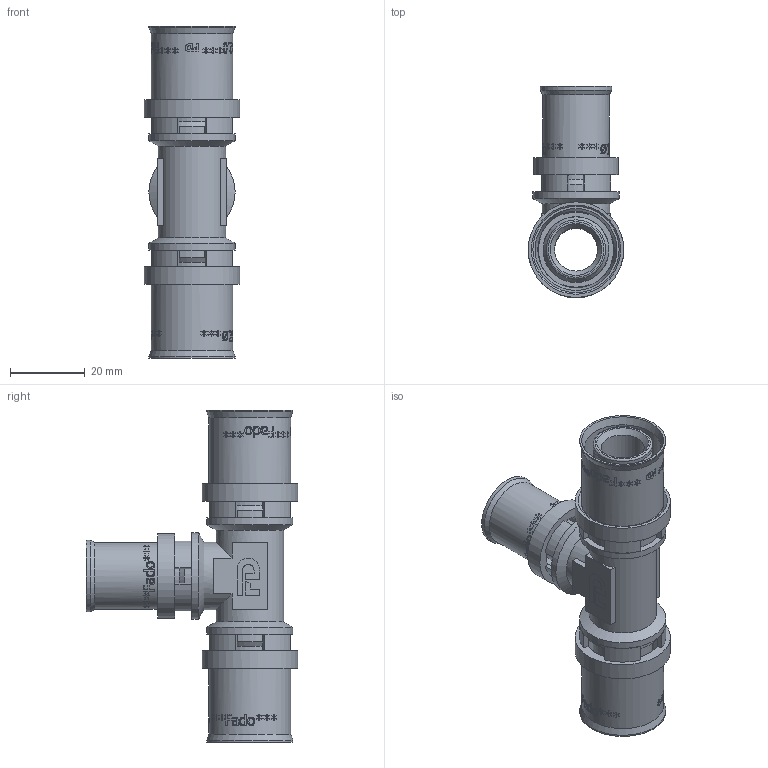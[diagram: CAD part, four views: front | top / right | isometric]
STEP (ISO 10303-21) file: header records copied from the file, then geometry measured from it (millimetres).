
FILE_DESCRIPTION(/* description */ (''),/* implementation_level */ '2;1');
FILE_NAME(/* name */ 'C:\Users\Doom\Desktop\Фадотех\Пресс\HDT04-20X20X16 21.08.2020\HDT04-20X20X16 21.08.2020.stp',/* time_stamp */ '2022-08-12T15:23:09+03:00',/* author */ ('Doom'),/* organization */ (''),/* preprocessor_version */ 'ST-DEVELOPER v18',/* originating_system */ 'Autodesk Inventor 2020',/* authorisation */ '');
FILE_SCHEMA (('AUTOMOTIVE_DESIGN { 1 0 10303 214 3 1 1 }'));
Length unit declared in the file: millimetre
Products named in the file (6): HDM01 Coupler 31.03.2020; 16 Model 18.12.2019; 16 Model 18.12.2019_1; HDT04-20X20X16 21.08.2020; 16 Model 18.12.2019_2; 16 Model 18.12.2019_3
Assembly tree (7 placements, depth 2):
  HDM01 Coupler 31.03.2020
    16 Model 18.12.2019
    16 Model 18.12.2019_1
    HDT04-20X20X16 21.08.2020
    16 Model 18.12.2019_2  x2
    16 Model 18.12.2019_3  x2
Bounding box: 25.5 x 56.35 x 88.55 mm (x, y, z)
Volume: 19324.3 mm3; surface area: 26064 mm2
Topology: 7 solids, 7 shells, 1539 faces, 4328 edges, 2922 vertices
Faces by surface type: bspline 909, plane 373, cylinder 197, cone 45, torus 15
Full cylindrical faces by diameter (mm): 7.5 x1, 9.5 x2, 10.3 x1, 11.5 x1, 11.8 x8, 12.5 x1, 12.6 x1, 13.5 x5, 13.8 x1, 14.3 x2, 15.8 x16, 16.4 x3, 16.6 x2, 17.5 x2, 17.6 x2, 17.8 x1, 18 x2, 18.3 x1, 19 x1, 19.2 x1, 19.5 x1, 20.3 x1, 20.4 x4, 21.8 x2, 22 x2, 22.5 x1, 23 x7, 23.5 x2, 25.5 x2
Entity records: 45811 total; most frequent: CARTESIAN_POINT 21041, ORIENTED_EDGE 6068, DIRECTION 3444, EDGE_CURVE 3034, VERTEX_POINT 2055, B_SPLINE_CURVE_WITH_KNOTS 1204, LINE 1200, VECTOR 1200
